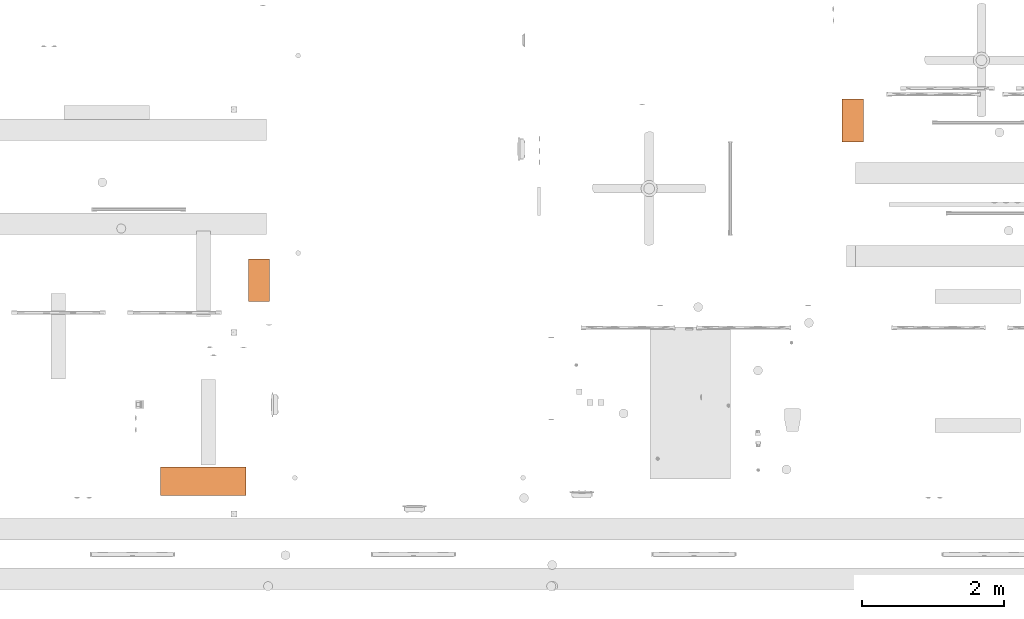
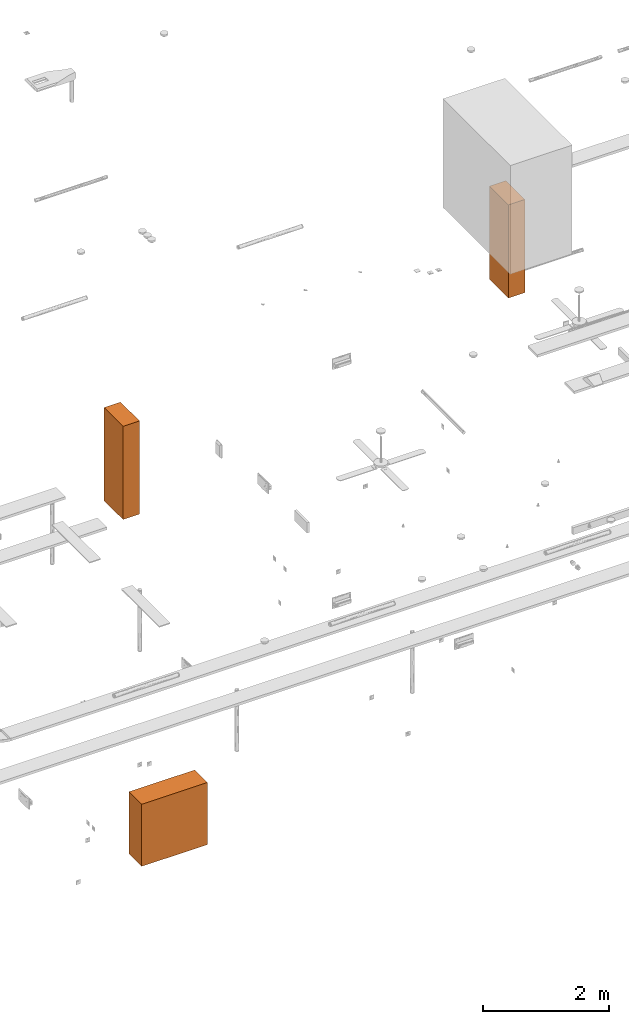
# One storey, part 153 of 153: 3 proxies.
"""IFC2X3 building model written with IfcOpenShell, lengths in metres."""

from ifc_helpers import new_model, entity, si_unit, converted_unit, derived_unit, direction, frame, origin, origin_2d_with_axis, place, context, subcontext, project, spatial, rectangle, extrude, source, transform, mapped, type_object, type_shapes, element, save


model = new_model("IFC2X3")

# Units and contexts
model_context = context("Model", 3, precision=1e-05, world=origin(), true_north=direction((6.12303176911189e-17, 1.0)))
body_context = subcontext(model_context, "Body", "Model", "MODEL_VIEW")
ifc_project = project(units=[si_unit("LENGTHUNIT", "METRE"), si_unit("AREAUNIT", "SQUARE_METRE"), si_unit("VOLUMEUNIT", "CUBIC_METRE"), converted_unit("PLANEANGLEUNIT", "DEGREE", entity("IfcRatioMeasure", 0.0174532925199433), si_unit("PLANEANGLEUNIT", "RADIAN"), dimensions=[0, 0, 0, 0, 0, 0, 0]), si_unit("MASSUNIT", "GRAM", prefix="KILO"), derived_unit("MASSDENSITYUNIT", [(si_unit("MASSUNIT", "GRAM", prefix="KILO"), 1), (si_unit("LENGTHUNIT", "METRE"), -3)]), si_unit("TIMEUNIT", "SECOND"), si_unit("FREQUENCYUNIT", "HERTZ"), si_unit("THERMODYNAMICTEMPERATUREUNIT", "DEGREE_CELSIUS"), derived_unit("THERMALTRANSMITTANCEUNIT", [(si_unit("MASSUNIT", "GRAM", prefix="KILO"), 1), (si_unit("THERMODYNAMICTEMPERATUREUNIT", "KELVIN"), -1), (si_unit("TIMEUNIT", "SECOND"), -3)]), derived_unit("VOLUMETRICFLOWRATEUNIT", [(si_unit("LENGTHUNIT", "METRE"), 3), (si_unit("TIMEUNIT", "SECOND"), -1)]), si_unit("ELECTRICCURRENTUNIT", "AMPERE"), si_unit("ELECTRICVOLTAGEUNIT", "VOLT"), si_unit("POWERUNIT", "WATT"), si_unit("FORCEUNIT", "NEWTON"), si_unit("ILLUMINANCEUNIT", "LUX"), si_unit("LUMINOUSFLUXUNIT", "LUMEN"), si_unit("LUMINOUSINTENSITYUNIT", "CANDELA"), derived_unit("USERDEFINED", [(si_unit("MASSUNIT", "GRAM", prefix="KILO"), -1), (si_unit("LENGTHUNIT", "METRE"), -2), (si_unit("TIMEUNIT", "SECOND"), 3), (si_unit("LUMINOUSFLUXUNIT", "LUMEN"), 1)]), derived_unit("LINEARVELOCITYUNIT", [(si_unit("LENGTHUNIT", "METRE"), 1), (si_unit("TIMEUNIT", "SECOND"), -1)]), si_unit("PRESSUREUNIT", "PASCAL"), derived_unit("USERDEFINED", [(si_unit("LENGTHUNIT", "METRE"), -2), (si_unit("MASSUNIT", "GRAM", prefix="KILO"), 1), (si_unit("TIMEUNIT", "SECOND"), -2)])], contexts=[model_context])

# Site, building, storey
site_placement = place(None, origin())
site = spatial("IfcSite", under=ifc_project, at=site_placement, Name="Default", CompositionType="ELEMENT")
building_placement = place(site_placement, origin())
building = spatial("IfcBuilding", under=site, at=building_placement, CompositionType="ELEMENT")
storey_placement = place(building_placement, frame((0.0, 0.0, -4.62)))
storey = spatial("IfcBuildingStorey", under=building, at=storey_placement, Name="S02", CompositionType="ELEMENT", Elevation=-4.62)

# Proxies
building_element_proxy_type_1 = type_object("IfcBuildingElementProxyType", Name="TD", PredefinedType="NOTDEFINED")
shared_shape_1 = source(origin(), body_context, "Body", "SweptSolid", [
    extrude(rectangle(XDim=0.3, YDim=0.6, at=origin_2d_with_axis()), frame((0.0, 0.0, 0.0), z_axis=(0.0, 0.0, 1.0), x_axis=(0.0, 1.0, 0.0)), (0.0, 0.0, 1.0), 1.8),
])
type_shapes(building_element_proxy_type_1, [shared_shape_1])
for number, where, z_axis, x_axis, name in (
    (1, (49.7222754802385, -187.961912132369, 0.0), (0.0, 0.0, 1.0), (0.0, -1.0, 0.0), "Tableau divisionaire:TD 0.1"),
    (2, (41.3882835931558, -190.203624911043, 0.0), (0.0, 0.0, 1.0), (0.0, -1.0, 0.0), "Tableau divisionaire:TD 0.2"),
):
    element("IfcBuildingElementProxy", number, at=place(building_placement, frame(where, z_axis=z_axis, x_axis=x_axis)), inside=storey, type_object=building_element_proxy_type_1, Name=name, ObjectType="Tableau divisionaire:TD", context=body_context, shape_type="MappedRepresentation", body=[
        mapped(shared_shape_1, transform((0.0, 0.0, 0.0), scale=1.0)),
    ])
building_element_proxy_type_2 = type_object("IfcBuildingElementProxyType", Name="TGBT", PredefinedType="NOTDEFINED")
shared_shape_2 = source(origin(), body_context, "Body", "SweptSolid", [
    extrude(rectangle(XDim=0.4, YDim=1.2, at=origin_2d_with_axis()), frame((0.0, 0.0, 0.0), z_axis=(0.0, 0.0, 1.0), x_axis=(0.0, -1.0, 0.0)), (0.0, 0.0, 1.0), 1.2),
])
type_shapes(building_element_proxy_type_2, [shared_shape_2])
proxy_placement = place(building_placement, frame((40.6058946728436, -193.023590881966, -4.62)))
element("IfcBuildingElementProxy", 3, at=proxy_placement, inside=storey, type_object=building_element_proxy_type_2, Name="TGBT:TGBT, 230 V/400 V, Three Phase, 4 Wires, Star", ObjectType="TGBT:TGBT", context=body_context, shape_type="MappedRepresentation", body=[
    mapped(shared_shape_2, transform((0.0, 0.0, 0.0), scale=1.0)),
])

save(model, "model.ifc")
